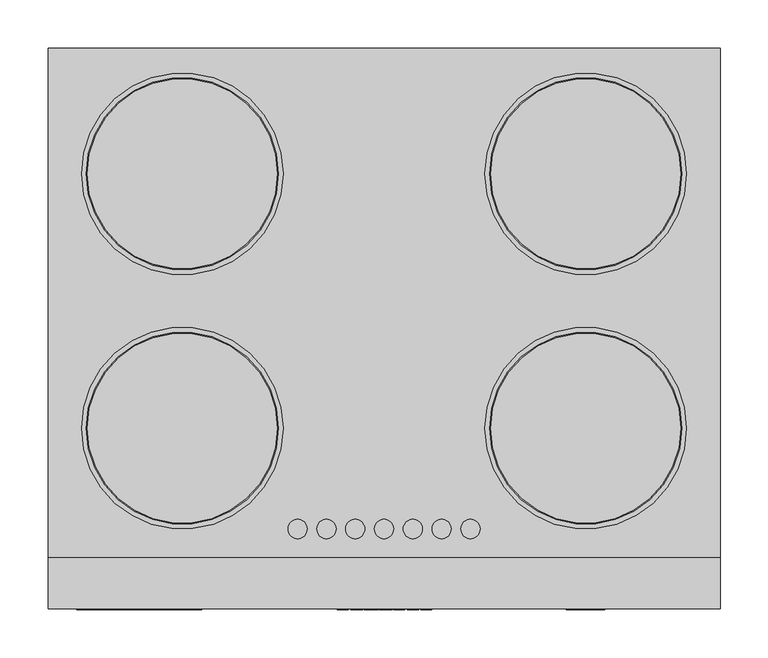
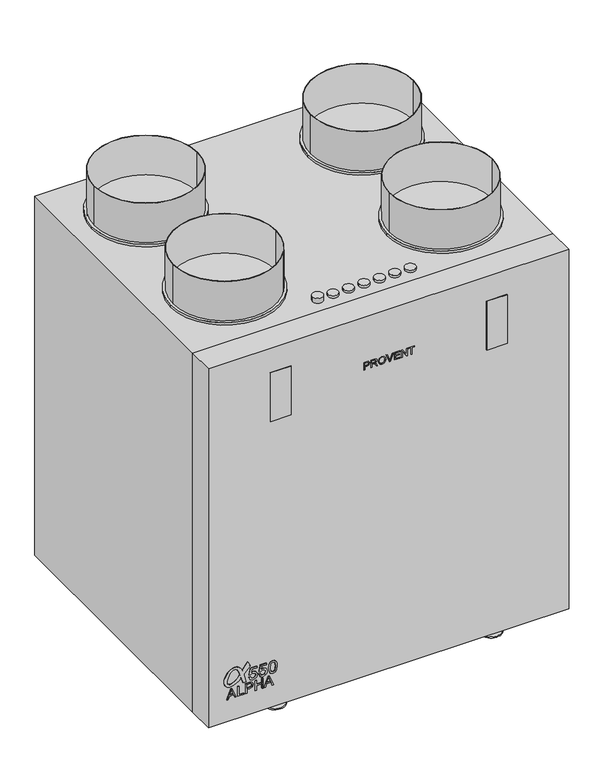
"""IFC4 building model written with IfcOpenShell, lengths in millimetres: proxy geometry, PROVENT_Вертикальная приточно-вытяжная установка_ALPHA 550 V_L : Provent ALPHA 550 V (L)."""

from ifc_helpers import new_model, si_unit, point, frame, frame_2d, origin, origin_with_axes, place, context, project, spatial, polyline, circle_curve, trimmed, segment, composite_curve, outline, extrude, source, transform, mapped, element, save
from ifc_brep_helpers import plane_surface, cylinder_surface, advanced_brep


def mechanical_equipment_6c99727b(model_context):
    return source(origin(), model_context, "Body", "SolidModel", [
        extrude(outline(composite_curve([segment(trimmed(circle_curve(frame_2d((105.733129, -284.9763849)), 0.5380284), [point((105.5307619, -284.477865))], [point((105.5307619, -285.4749048))], True, "CARTESIAN"), True, "CONTINUOUS"), segment(polyline([(105.5307619, -285.4749048), (108.4438718, -286.5931429), (110.8786758, -287.8337375), (111.8121807, -288.4873847)]), True, "CONTINUOUS"), segment(trimmed(circle_curve(frame_2d((104.0893382, -298.4577907)), 12.6115539), [point((111.8121807, -288.4873847))], [point((116.6261852, -299.8284687))], False, "CARTESIAN"), True, "CONTINUOUS"), segment(trimmed(circle_curve(frame_2d((94.7661112, -297.438464)), 21.9903379), [point((116.6261852, -299.8284687))], [point((104.4885666, -317.1627846))], False, "CARTESIAN"), True, "CONTINUOUS"), segment(trimmed(circle_curve(frame_2d((93.5739124, -298.6309048)), 21.5072137), [point((104.4885666, -317.1627846))], [point((86.750764, -319.0271027))], False, "CARTESIAN"), True, "CONTINUOUS"), segment(trimmed(circle_curve(frame_2d((92.3890877, -307.9035775)), 12.4709065), [point((86.750764, -319.0271027))], [point((79.9366704, -307.2247464))], False, "CARTESIAN"), True, "CONTINUOUS"), segment(trimmed(circle_curve(frame_2d((110.0461474, -310.929001)), 30.3364814), [point((79.9366704, -307.2247464))], [point((90.1381753, -288.0385062))], False, "CARTESIAN"), True, "CONTINUOUS"), segment(polyline([(90.1381753, -288.0385062), (97.4533974, -290.4153659)]), True, "CONTINUOUS"), segment(trimmed(circle_curve(frame_2d((112.8376087, -315.8775085)), 29.7488598), [point((97.4533974, -290.4153659))], [point((85.9068624, -303.2390922))], True, "CARTESIAN"), True, "CONTINUOUS"), segment(trimmed(circle_curve(frame_2d((94.2043298, -307.1330373)), 9.1657392), [point((85.9068624, -303.2390922))], [point((86.5295452, -312.1438711))], True, "CARTESIAN"), True, "CONTINUOUS"), segment(trimmed(circle_curve(frame_2d((91.0798658, -309.1729864)), 5.4342961), [point((86.5295452, -312.1438711))], [point((91.5402338, -314.5877472))], True, "CARTESIAN"), True, "CONTINUOUS"), segment(trimmed(circle_curve(frame_2d((91.5850962, -295.8364995)), 18.7513014), [point((91.5402338, -314.5877472))], [point((99.8454243, -312.6703429))], True, "CARTESIAN"), True, "CONTINUOUS"), segment(trimmed(circle_curve(frame_2d((91.1893595, -287.6077195)), 26.5153267), [point((99.8454243, -312.6703429))], [point((111.1844004, -305.0221069))], True, "CARTESIAN"), True, "CONTINUOUS"), segment(trimmed(circle_curve(frame_2d((105.8571487, -300.3824152)), 7.0644427), [point((111.1844004, -305.0221069))], [point((110.4868357, -295.0464664))], True, "CARTESIAN"), True, "CONTINUOUS"), segment(trimmed(circle_curve(frame_2d((74.7273898, -357.6671762)), 72.1116583), [point((110.4868357, -295.0464664))], [point((96.0155477, -288.7693853))], True, "CARTESIAN"), True, "CONTINUOUS"), segment(polyline([(96.0155477, -288.7693853), (80.1999436, -283.630584), (80.1999436, -277.5962905), (94.9084674, -281.397388)]), True, "CONTINUOUS"), segment(trimmed(circle_curve(frame_2d((95.7729921, -278.0520692)), 3.4552222), [point((94.9084674, -281.397388))], [point((98.5138308, -280.1559618))], True, "CARTESIAN"), True, "CONTINUOUS"), segment(polyline([(98.5138308, -280.1559618), (109.4841363, -269.9259864)]), True, "CONTINUOUS"), segment(trimmed(circle_curve(frame_2d((110.1625275, -270.6534719)), 0.9947108), [point((109.4841363, -269.9259864))], [point((110.8409186, -269.9259864))], False, "CARTESIAN"), True, "CONTINUOUS"), segment(polyline([(110.8409186, -269.9259864), (118.9566741, -273.8843048)]), True, "CONTINUOUS"), segment(trimmed(circle_curve(frame_2d((118.472789, -274.2278993)), 0.593466), [point((118.9566741, -273.8843048))], [point((118.8242858, -274.7060749))], False, "CARTESIAN"), True, "CONTINUOUS"), segment(polyline([(118.8242858, -274.7060749), (105.5307619, -284.477865)]), True, "CONTINUOUS")], self_intersect=False)), frame((0.0, -293.0, 0.0), z_axis=(0.0, 1.0, 0.0), x_axis=(0.0, 0.0, 1.0)), (0.0, 0.0, 1.0), 1.0),
        extrude(outline(polyline([(55.4809879, -314.7753475), (55.4809879, -312.121692), (61.7595073, -309.8261083), (61.7595073, -301.551216), (55.4809879, -299.2507273), (55.4809879, -296.5970718), (75.57225, -304.6168993), (75.57225, -306.75552), (55.4809879, -314.7753475)]), holes=[polyline([(64.2709151, -308.9039508), (69.6419922, -306.9370084), (73.0608422, -305.6862096), (69.210344, -304.2784479), (64.2709151, -302.4684684), (64.2709151, -308.9039508)])]), frame((0.0, -293.0, 0.0), z_axis=(0.0, 1.0, 0.0), x_axis=(0.0, 0.0, 1.0)), (0.0, 0.0, 1.0), 5.0),
        extrude(outline(polyline([(55.4809879, -293.9139858), (55.4809879, -281.356947), (57.9923957, -281.356947), (57.9923957, -291.402578), (75.57225, -291.402578), (75.57225, -293.9139858), (55.4809879, -293.9139858)])), frame((0.0, -293.0, 0.0), z_axis=(0.0, 1.0, 0.0), x_axis=(0.0, 0.0, 1.0)), (0.0, 0.0, 1.0), 5.0),
        extrude(outline(polyline([(55.4809879, -278.5316133), (55.4809879, -276.0202055), (63.6430631, -276.0202055), (63.6430631, -270.9140034), (65.4187069, -265.079395), (69.7597144, -263.4631668), (72.499209, -264.0615881), (74.441626, -265.6434807), (75.3809513, -268.0837646), (75.57225, -271.0856817), (75.57225, -278.5316133), (55.4809879, -278.5316133)]), holes=[polyline([(66.1544709, -276.0202055), (73.0608422, -276.0202055), (73.0608422, -270.8257118), (72.8891639, -268.314304), (71.7511823, -266.6195943), (69.6714228, -265.9745745), (67.0766284, -267.0684103), (66.1544709, -270.7668506), (66.1544709, -276.0202055)])]), frame((0.0, -293.0, 0.0), z_axis=(0.0, 1.0, 0.0), x_axis=(0.0, 0.0, 1.0)), (0.0, 0.0, 1.0), 5.0),
        extrude(outline(polyline([(55.4809879, -260.0099811), (55.4809879, -257.4985734), (64.898767, -257.4985734), (64.898767, -246.8250904), (55.4809879, -246.8250904), (55.4809879, -244.3136826), (75.57225, -244.3136826), (75.57225, -246.8250904), (67.4101748, -246.8250904), (67.4101748, -257.4985734), (75.57225, -257.4985734), (75.57225, -260.0099811), (55.4809879, -260.0099811)])), frame((0.0, -293.0, 0.0), z_axis=(0.0, 1.0, 0.0), x_axis=(0.0, 0.0, 1.0)), (0.0, 0.0, 1.0), 5.0),
        extrude(outline(polyline([(55.4809879, -242.2584486), (55.4809879, -239.6047931), (61.7595073, -237.3092095), (61.7595073, -229.0343171), (55.4809879, -226.7338284), (55.4809879, -224.0801729), (75.57225, -232.1000004), (75.57225, -234.2386211), (55.4809879, -242.2584486)]), holes=[polyline([(64.2709151, -236.3870519), (69.6419922, -234.4201095), (73.0608422, -233.1693107), (69.210344, -231.761549), (64.2709151, -229.9515696), (64.2709151, -236.3870519)])]), frame((0.0, -293.0, 0.0), z_axis=(0.0, 1.0, 0.0), x_axis=(0.0, 0.0, 1.0)), (0.0, 0.0, 1.0), 5.0),
        extrude(outline(polyline([(86.2812872, -271.9127041), (81.1523991, -269.4632232), (79.2179529, -263.9235335), (82.2284539, -257.3997594), (88.0532522, -255.4315907), (93.8412622, -257.6174229), (96.0914738, -262.9854344), (94.2765893, -267.5778279), (101.1927708, -266.2350587), (101.1927708, -256.6088131), (104.3320305, -256.6088131), (104.3320305, -268.7734444), (91.3825842, -271.5202967), (90.9901768, -268.381037), (92.4065225, -266.6182691), (92.9522141, -263.8622198), (91.5849193, -259.8860286), (87.8570485, -258.5708504), (83.8624631, -259.9749334), (82.3572126, -263.9112707), (83.4393988, -267.1915518), (86.6736947, -268.7734444), (86.2812872, -271.9127041)])), frame((0.0, -293.0, 0.0), z_axis=(0.0, 1.0, 0.0), x_axis=(0.0, 0.0, 1.0)), (0.0, 0.0, 1.0), 5.0),
        extrude(outline(polyline([(86.2812872, -252.6847385), (81.1523991, -250.2352575), (79.2179529, -244.6955678), (82.2284539, -238.1717938), (88.0532522, -236.2036251), (93.8412622, -238.3894573), (96.0914738, -243.7574687), (94.2765893, -248.3498623), (101.1927708, -247.007093), (101.1927708, -237.3808475), (104.3320305, -237.3808475), (104.3320305, -249.5454788), (91.3825842, -252.292331), (90.9901768, -249.1530713), (92.4065225, -247.3903035), (92.9522141, -244.6342542), (91.5849193, -240.6580629), (87.8570485, -239.3428848), (83.8624631, -240.7469678), (82.3572126, -244.6833051), (83.4393988, -247.9635862), (86.6736947, -249.5454788), (86.2812872, -252.6847385)])), frame((0.0, -293.0, 0.0), z_axis=(0.0, 1.0, 0.0), x_axis=(0.0, 0.0, 1.0)), (0.0, 0.0, 1.0), 5.0),
        extrude(outline(polyline([(91.9650641, -233.4567729), (81.6091859, -230.9551753), (79.2179529, -225.2162162), (80.5944447, -220.6207569), (84.7699054, -217.8892331), (91.9650641, -216.9756595), (97.8665044, -217.5458766), (101.5821126, -219.0174046), (103.9150975, -221.549659), (104.7244379, -225.2162162), (103.3571432, -229.7932813), (99.1908796, -232.5340022), (91.9650641, -233.4567729)]), holes=[polyline([(91.9711954, -230.3175132), (99.9051838, -228.7969343), (101.5851782, -225.2530044), (99.6783232, -221.5373962), (91.9711954, -220.1149192), (84.1812942, -221.5864472), (82.3572126, -225.2162162), (84.1751628, -228.8459852), (91.9711954, -230.3175132)])]), frame((0.0, -293.0, 0.0), z_axis=(0.0, 1.0, 0.0), x_axis=(0.0, 0.0, 1.0)), (0.0, 0.0, 1.0), 5.0),
        extrude(outline(polyline([(-190.0, -293.0), (-230.0, -293.0), (-230.0, -292.0), (-190.0, -292.0), (-190.0, -293.0)])), frame((0.0, 0.0, 597.0), z_axis=(0.0, 0.0, 1.0), x_axis=(1.0, 0.0, 0.0)), (0.0, 0.0, 1.0), 100.0),
        extrude(outline(polyline([(230.0, -293.0), (190.0, -293.0), (190.0, -292.0), (230.0, -292.0), (230.0, -293.0)])), frame((0.0, 0.0, 597.0), z_axis=(0.0, 0.0, 1.0), x_axis=(1.0, 0.0, 0.0)), (0.0, 0.0, 1.0), 100.0),
        extrude(outline(composite_curve([segment(trimmed(circle_curve(frame_2d((-90.0, -209.0)), 10.0), [point((-100.0, -209.0))], [point((-80.0, -209.0))], False, "CARTESIAN"), True, "CONTINUOUS"), segment(trimmed(circle_curve(frame_2d((-90.0, -209.0)), 10.0), [point((-80.0, -209.0))], [point((-100.0, -209.0))], False, "CARTESIAN"), True, "CONTINUOUS")], self_intersect=False)), frame((0.0, 0.0, 747.0), z_axis=(0.0, 0.0, 1.0), x_axis=(1.0, 0.0, 0.0)), (0.0, 0.0, 1.0), 10.0),
        extrude(outline(composite_curve([segment(trimmed(circle_curve(frame_2d((0.0, -209.0)), 10.0), [point((-10.0, -209.0))], [point((10.0, -209.0))], False, "CARTESIAN"), True, "CONTINUOUS"), segment(trimmed(circle_curve(frame_2d((0.0, -209.0)), 10.0), [point((10.0, -209.0))], [point((-10.0, -209.0))], False, "CARTESIAN"), True, "CONTINUOUS")], self_intersect=False)), frame((0.0, 0.0, 747.0), z_axis=(0.0, 0.0, 1.0), x_axis=(1.0, 0.0, 0.0)), (0.0, 0.0, 1.0), 5.0),
        extrude(outline(composite_curve([segment(trimmed(circle_curve(frame_2d((30.0, -209.0)), 10.0), [point((20.0, -209.0))], [point((40.0, -209.0))], False, "CARTESIAN"), True, "CONTINUOUS"), segment(trimmed(circle_curve(frame_2d((30.0, -209.0)), 10.0), [point((40.0, -209.0))], [point((20.0, -209.0))], False, "CARTESIAN"), True, "CONTINUOUS")], self_intersect=False)), frame((0.0, 0.0, 747.0), z_axis=(0.0, 0.0, 1.0), x_axis=(1.0, 0.0, 0.0)), (0.0, 0.0, 1.0), 5.0),
        extrude(outline(composite_curve([segment(trimmed(circle_curve(frame_2d((60.0, -209.0)), 10.0), [point((50.0, -209.0))], [point((70.0, -209.0))], False, "CARTESIAN"), True, "CONTINUOUS"), segment(trimmed(circle_curve(frame_2d((60.0, -209.0)), 10.0), [point((70.0, -209.0))], [point((50.0, -209.0))], False, "CARTESIAN"), True, "CONTINUOUS")], self_intersect=False)), frame((0.0, 0.0, 747.0), z_axis=(0.0, 0.0, 1.0), x_axis=(1.0, 0.0, 0.0)), (0.0, 0.0, 1.0), 5.0),
        extrude(outline(composite_curve([segment(trimmed(circle_curve(frame_2d((90.0, -209.0)), 10.0), [point((80.0, -209.0))], [point((100.0, -209.0))], False, "CARTESIAN"), True, "CONTINUOUS"), segment(trimmed(circle_curve(frame_2d((90.0, -209.0)), 10.0), [point((100.0, -209.0))], [point((80.0, -209.0))], False, "CARTESIAN"), True, "CONTINUOUS")], self_intersect=False)), frame((0.0, 0.0, 747.0), z_axis=(0.0, 0.0, 1.0), x_axis=(1.0, 0.0, 0.0)), (0.0, 0.0, 1.0), 5.0),
        extrude(outline(composite_curve([segment(trimmed(circle_curve(frame_2d((-30.0, -209.0)), 10.0), [point((-40.0, -209.0))], [point((-20.0, -209.0))], False, "CARTESIAN"), True, "CONTINUOUS"), segment(trimmed(circle_curve(frame_2d((-30.0, -209.0)), 10.0), [point((-20.0, -209.0))], [point((-40.0, -209.0))], False, "CARTESIAN"), True, "CONTINUOUS")], self_intersect=False)), frame((0.0, 0.0, 747.0), z_axis=(0.0, 0.0, 1.0), x_axis=(1.0, 0.0, 0.0)), (0.0, 0.0, 1.0), 5.0),
        extrude(outline(composite_curve([segment(trimmed(circle_curve(frame_2d((-60.0, -209.0)), 10.0), [point((-70.0, -209.0))], [point((-50.0, -209.0))], False, "CARTESIAN"), True, "CONTINUOUS"), segment(trimmed(circle_curve(frame_2d((-60.0, -209.0)), 10.0), [point((-50.0, -209.0))], [point((-70.0, -209.0))], False, "CARTESIAN"), True, "CONTINUOUS")], self_intersect=False)), frame((0.0, 0.0, 747.0), z_axis=(0.0, 0.0, 1.0), x_axis=(1.0, 0.0, 0.0)), (0.0, 0.0, 1.0), 5.0),
        advanced_brep(
        [(-230.0, -239.2475488, 2.5), (-230.0, -201.7475488, 10.0), (-230.0, -189.0, 10.0), (-230.0, -189.0, 7.5), (-230.0, -201.5, 7.5), (-230.0, -239.0, 0.0), (-230.0, -272.0, 0.0), (-230.0, -272.0, 2.5), (-190.0, -239.0, 0.0), (-190.0, -201.5, 7.5), (-190.0, -189.0, 7.5), (-190.0, -189.0, 10.0), (-190.0, -201.7475488, 10.0), (-190.0, -239.2475488, 2.5), (-190.0, -272.0, 2.5), (-190.0, -272.0, 0.0), (-210.0, -292.0, 0.0), (-210.0, -292.0, 2.5)],
        [
            (0, 1),
            (1, 2),
            (2, 3),
            (3, 4),
            (4, 5),
            (5, 6),
            (6, 7),
            (7, 0),
            (8, 9),
            (9, 10),
            (10, 11),
            (11, 12),
            (12, 13),
            (13, 14),
            (14, 15),
            (15, 8),
            (5, 8),
            (15, 16, circle_curve(frame((-210.0, -272.0, 0.0), z_axis=(0.0, 0.0, -1.0), x_axis=(-1.0, 0.0, 0.0)), 20.0)),
            (16, 6, circle_curve(frame((-210.0, -272.0, 0.0), z_axis=(0.0, 0.0, -1.0), x_axis=(1.0, 0.0, 0.0)), 20.0)),
            (4, 9),
            (3, 10),
            (2, 11),
            (1, 12),
            (0, 13),
            (7, 17, circle_curve(frame((-210.0, -272.0, 2.5), z_axis=(0.0, 0.0, 1.0), x_axis=(1.0, 0.0, 0.0)), 20.0)),
            (17, 14, circle_curve(frame((-210.0, -272.0, 2.5), z_axis=(0.0, 0.0, 1.0), x_axis=(-1.0, 0.0, 0.0)), 20.0)),
            (17, 16),
        ],
        [
            plane_surface(frame((-230.0, -292.0, 2.5), z_axis=(-1.0, 0.0, 0.0), x_axis=(0.0, 1.0, 0.0))),
            plane_surface(frame((-190.0, -292.0, 2.5), z_axis=(1.0, 0.0, 0.0), x_axis=(0.0, -1.0, 0.0))),
            plane_surface(frame((-230.0, -239.0, 0.0), z_axis=(0.0, 0.0, -1.0), x_axis=(1.0, 0.0, 0.0))),
            plane_surface(frame((-230.0, -201.5, 7.5), z_axis=(0.0, 0.19611613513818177, -0.9805806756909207), x_axis=(1.0, 0.0, 0.0))),
            plane_surface(frame((-230.0, -189.0, 7.5), z_axis=(0.0, 0.0, -1.0), x_axis=(1.0, 0.0, 0.0))),
            plane_surface(frame((-230.0, -189.0, 10.0), z_axis=(0.0, 1.0, 0.0), x_axis=(1.0, 0.0, 0.0))),
            plane_surface(frame((-230.0, -201.7475488, 10.0), z_axis=(0.0, 0.0, 1.0), x_axis=(1.0, 0.0, 0.0))),
            plane_surface(frame((-230.0, -239.2475488, 2.5), z_axis=(0.0, -0.19611613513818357, 0.9805806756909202), x_axis=(1.0, 0.0, 0.0))),
            plane_surface(frame((-230.0, -292.0, 2.5), z_axis=(0.0, 0.0, 1.0), x_axis=(1.0, 0.0, 0.0))),
            cylinder_surface(frame((-210.0, -272.0, 0.0), z_axis=(0.0, 0.0, -1.0), x_axis=(-1.0, 0.0, 0.0)), 20.0),
            cylinder_surface(frame((-210.0, -272.0, 0.0), z_axis=(0.0, 0.0, -1.0), x_axis=(1.0, 0.0, 0.0)), 20.0),
        ],
        [
            (0, [[1, 2, 3, 4, 5, 6, 7, 8]]),
            (1, [[9, 10, 11, 12, 13, 14, 15, 16]]),
            (2, [[17, -16, 18, 19, -6]]),
            (3, [[-5, 20, -9, -17]]),
            (4, [[-4, 21, -10, -20]]),
            (5, [[-3, 22, -11, -21]]),
            (6, [[-2, 23, -12, -22]]),
            (7, [[-1, 24, -13, -23]]),
            (8, [[-24, -8, 25, 26, -14]]),
            (9, [[-15, -26, 27, -18]]),
            (10, [[-7, -19, -27, -25]]),
        ],
    ),
        advanced_brep(
        [(230.0, -239.0, 0.0), (230.0, -201.5, 7.5), (230.0, -189.0, 7.5), (230.0, -189.0, 10.0), (230.0, -201.7475488, 10.0), (230.0, -239.2475488, 2.5), (230.0, -272.0, 2.5), (230.0, -272.0, 0.0), (190.0, -239.2475488, 2.5), (190.0, -201.7475488, 10.0), (190.0, -189.0, 10.0), (190.0, -189.0, 7.5), (190.0, -201.5, 7.5), (190.0, -239.0, 0.0), (190.0, -272.0, 0.0), (190.0, -272.0, 2.5), (210.0, -292.0, 0.0), (210.0, -292.0, 2.5)],
        [
            (0, 1),
            (1, 2),
            (2, 3),
            (3, 4),
            (4, 5),
            (5, 6),
            (6, 7),
            (7, 0),
            (8, 9),
            (9, 10),
            (10, 11),
            (11, 12),
            (12, 13),
            (13, 14),
            (14, 15),
            (15, 8),
            (13, 0),
            (7, 16, circle_curve(frame((210.0, -272.0, 0.0), z_axis=(0.0, 0.0, -1.0), x_axis=(-1.0, 0.0, 0.0)), 20.0)),
            (16, 14, circle_curve(frame((210.0, -272.0, 0.0), z_axis=(0.0, 0.0, -1.0), x_axis=(1.0, 0.0, 0.0)), 20.0)),
            (12, 1),
            (11, 2),
            (10, 3),
            (9, 4),
            (8, 5),
            (15, 17, circle_curve(frame((210.0, -272.0, 2.5), z_axis=(0.0, 0.0, 1.0), x_axis=(1.0, 0.0, 0.0)), 20.0)),
            (17, 6, circle_curve(frame((210.0, -272.0, 2.5), z_axis=(0.0, 0.0, 1.0), x_axis=(-1.0, 0.0, 0.0)), 20.0)),
            (16, 17),
        ],
        [
            plane_surface(frame((230.0, -292.0, 0.0), z_axis=(1.0, 0.0, 0.0), x_axis=(0.0, 0.0, -1.0))),
            plane_surface(frame((190.0, -292.0, 0.0), z_axis=(-1.0, 0.0, 0.0), x_axis=(0.0, 0.0, 1.0))),
            plane_surface(frame((230.0, -292.0, 0.0), z_axis=(0.0, 0.0, -1.0), x_axis=(-1.0, 0.0, 0.0))),
            plane_surface(frame((230.0, -239.0, 0.0), z_axis=(0.0, 0.1961161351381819, -0.9805806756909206), x_axis=(-1.0, 0.0, 0.0))),
            plane_surface(frame((230.0, -201.5, 7.5), z_axis=(0.0, 0.0, -1.0), x_axis=(-1.0, 0.0, 0.0))),
            plane_surface(frame((230.0, -189.0, 7.5), z_axis=(0.0, 1.0, 0.0), x_axis=(-1.0, 0.0, 0.0))),
            plane_surface(frame((230.0, -189.0, 10.0), z_axis=(0.0, 0.0, 1.0), x_axis=(-1.0, 0.0, 0.0))),
            plane_surface(frame((230.0, -201.7475488, 10.0), z_axis=(0.0, -0.19611613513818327, 0.9805806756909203), x_axis=(-1.0, 0.0, 0.0))),
            plane_surface(frame((230.0, -239.2475488, 2.5), z_axis=(0.0, 0.0, 1.0), x_axis=(-1.0, 0.0, 0.0))),
            cylinder_surface(frame((210.0, -272.0, 0.0), z_axis=(0.0, 0.0, -1.0), x_axis=(1.0, 0.0, 0.0)), 20.0),
            cylinder_surface(frame((210.0, -272.0, 0.0), z_axis=(0.0, 0.0, -1.0), x_axis=(-1.0, 0.0, 0.0)), 20.0),
        ],
        [
            (0, [[1, 2, 3, 4, 5, 6, 7, 8]]),
            (1, [[9, 10, 11, 12, 13, 14, 15, 16]]),
            (2, [[17, -8, 18, 19, -14]]),
            (3, [[-1, -17, -13, 20]]),
            (4, [[-2, -20, -12, 21]]),
            (5, [[-3, -21, -11, 22]]),
            (6, [[-4, -22, -10, 23]]),
            (7, [[-5, -23, -9, 24]]),
            (8, [[-24, -16, 25, 26, -6]]),
            (9, [[-15, -19, 27, -25]]),
            (10, [[-7, -26, -27, -18]]),
        ],
    ),
        extrude(outline(polyline([(350.0, -292.0), (-350.0, -292.0), (-350.0, -239.0), (350.0, -239.0), (350.0, -292.0)])), frame((0.0, 0.0, 10.0), z_axis=(0.0, 0.0, 1.0), x_axis=(1.0, 0.0, 0.0)), (0.0, 0.0, 1.0), 737.0),
        extrude(outline(polyline([(639.5, -48.7370067), (639.5, -46.8534509), (645.6215564, -46.8534509), (645.6215564, -43.0237993), (646.9532892, -38.647843), (650.2090449, -37.4356718), (652.2636658, -37.8844879), (653.7204785, -39.0709073), (654.4249725, -40.9011202), (654.5684465, -43.152558), (654.5684465, -48.7370067), (639.5, -48.7370067)]), holes=[polyline([(647.5051122, -46.8534509), (652.6848907, -46.8534509), (652.6848907, -42.9575806), (651.7026458, -39.8029925), (650.1428261, -39.3192276), (648.1967304, -40.1396045), (647.5051122, -42.9134347), (647.5051122, -46.8534509)])]), frame((0.0, -293.0, 0.0), z_axis=(0.0, 1.0, 0.0), x_axis=(0.0, 0.0, 1.0)), (0.0, 0.0, 1.0), 5.0),
        extrude(outline(polyline([(639.5, -34.8457826), (639.5, -32.9622268), (646.0924454, -32.9622268), (644.690815, -27.7051931), (642.6233181, -26.2888474), (639.5, -24.3280363), (639.5, -22.1391385), (643.5834901, -24.6517725), (646.3278898, -27.2490194), (647.7295202, -24.0944313), (650.4444894, -23.0735587), (652.7235183, -23.6897611), (654.1619369, -25.3378724), (654.5684465, -28.3526654), (654.5684465, -34.8457826), (639.5, -34.8457826)]), holes=[polyline([(647.9760012, -32.9622268), (652.6848907, -32.9622268), (652.6848907, -28.2717313), (652.0337396, -25.7535791), (648.2427156, -26.5960288), (647.9760012, -28.7462991), (647.9760012, -32.9622268)])]), frame((0.0, -293.0, 0.0), z_axis=(0.0, 1.0, 0.0), x_axis=(0.0, 0.0, 1.0)), (0.0, 0.0, 1.0), 5.0),
        extrude(outline(polyline([(646.835567, -20.4836695), (643.08501, -19.6228256), (640.2891069, -17.0917975), (639.2645555, -13.3026129), (640.1916182, -9.655063), (642.9213026, -7.0431008), (647.0084715, -6.1215564), (651.0404582, -6.9971155), (653.8106096, -9.542859), (654.803891, -13.2915765), (652.6885695, -18.4750338), (646.835567, -20.4836695)]), holes=[polyline([(646.8171729, -18.6001137), (651.5131866, -17.0292576), (652.9203352, -13.28054), (652.1900894, -10.5159068), (650.1317897, -8.6452269), (647.0231868, -8.0051122), (642.6785004, -9.5005525), (641.1481113, -13.3136494), (642.6637852, -17.0936369), (646.8171729, -18.6001137)])]), frame((0.0, -293.0, 0.0), z_axis=(0.0, 1.0, 0.0), x_axis=(0.0, 0.0, 1.0)), (0.0, 0.0, 1.0), 5.0),
        extrude(outline(polyline([(639.5, 0.919705), (639.5, 2.8658007), (654.5684465, 8.6084387), (654.5684465, 6.5924454), (643.7122488, 2.5678163), (641.2658336, 1.7658336), (643.7122488, 0.9528144), (654.5684465, -3.0607782), (654.5684465, -5.0767715), (639.5, 0.919705)])), frame((0.0, -293.0, 0.0), z_axis=(0.0, 1.0, 0.0), x_axis=(0.0, 0.0, 1.0)), (0.0, 0.0, 1.0), 5.0),
        extrude(outline(polyline([(639.5, 10.359557), (639.5, 21.4254474), (641.3835558, 21.4254474), (641.3835558, 12.2431128), (646.3278898, 12.2431128), (646.3278898, 20.719114), (648.2114456, 20.719114), (648.2114456, 12.2431128), (652.6848907, 12.2431128), (652.6848907, 21.1900029), (654.5684465, 21.1900029), (654.5684465, 10.359557), (639.5, 10.359557)])), frame((0.0, -293.0, 0.0), z_axis=(0.0, 1.0, 0.0), x_axis=(0.0, 0.0, 1.0)), (0.0, 0.0, 1.0), 5.0),
        extrude(outline(polyline([(639.5, 24.2507811), (639.5, 26.1343369), (651.4414496, 26.1343369), (639.5, 34.0070116), (639.5, 36.023005), (654.5684465, 36.023005), (654.5684465, 34.1394492), (642.6306758, 34.1394492), (654.5684465, 26.2667745), (654.5684465, 24.2507811), (639.5, 24.2507811)])), frame((0.0, -293.0, 0.0), z_axis=(0.0, 1.0, 0.0), x_axis=(0.0, 0.0, 1.0)), (0.0, 0.0, 1.0), 5.0),
        extrude(outline(polyline([(639.5, 43.0863393), (639.5, 44.9698951), (652.6848907, 44.9698951), (652.6848907, 49.9142291), (654.5684465, 49.9142291), (654.5684465, 38.1420053), (652.6848907, 38.1420053), (652.6848907, 43.0863393), (639.5, 43.0863393)])), frame((0.0, -293.0, 0.0), z_axis=(0.0, 1.0, 0.0), x_axis=(0.0, 0.0, 1.0)), (0.0, 0.0, 1.0), 5.0),
        extrude(outline(composite_curve([segment(trimmed(circle_curve(frame_2d((-210.0, 161.0)), 105.0), [point((-315.0, 161.0))], [point((-105.0, 161.0))], False, "CARTESIAN"), True, "CONTINUOUS"), segment(trimmed(circle_curve(frame_2d((-210.0, 161.0)), 105.0), [point((-105.0, 161.0))], [point((-315.0, 161.0))], False, "CARTESIAN"), True, "CONTINUOUS")], self_intersect=False)), frame((0.0, 0.0, 747.0), z_axis=(0.0, 0.0, 1.0), x_axis=(1.0, 0.0, 0.0)), (0.0, 0.0, 1.0), 5.0),
        extrude(outline(composite_curve([segment(trimmed(circle_curve(frame_2d((210.0, 161.0)), 105.0), [point((105.0, 161.0))], [point((315.0, 161.0))], False, "CARTESIAN"), True, "CONTINUOUS"), segment(trimmed(circle_curve(frame_2d((210.0, 161.0)), 105.0), [point((315.0, 161.0))], [point((105.0, 161.0))], False, "CARTESIAN"), True, "CONTINUOUS")], self_intersect=False)), frame((0.0, 0.0, 747.0), z_axis=(0.0, 0.0, 1.0), x_axis=(1.0, 0.0, 0.0)), (0.0, 0.0, 1.0), 5.0),
        extrude(outline(composite_curve([segment(trimmed(circle_curve(frame_2d((210.0, -104.0)), 105.0), [point((105.0, -104.0))], [point((315.0, -104.0))], False, "CARTESIAN"), True, "CONTINUOUS"), segment(trimmed(circle_curve(frame_2d((210.0, -104.0)), 105.0), [point((315.0, -104.0))], [point((105.0, -104.0))], False, "CARTESIAN"), True, "CONTINUOUS")], self_intersect=False)), frame((0.0, 0.0, 747.0), z_axis=(0.0, 0.0, 1.0), x_axis=(1.0, 0.0, 0.0)), (0.0, 0.0, 1.0), 5.0),
        extrude(outline(composite_curve([segment(trimmed(circle_curve(frame_2d((-210.0, -104.0)), 105.0), [point((-315.0, -104.0))], [point((-105.0, -104.0))], False, "CARTESIAN"), True, "CONTINUOUS"), segment(trimmed(circle_curve(frame_2d((-210.0, -104.0)), 105.0), [point((-105.0, -104.0))], [point((-315.0, -104.0))], False, "CARTESIAN"), True, "CONTINUOUS")], self_intersect=False)), frame((0.0, 0.0, 747.0), z_axis=(0.0, 0.0, 1.0), x_axis=(1.0, 0.0, 0.0)), (0.0, 0.0, 1.0), 5.0),
        extrude(outline(polyline([(190.0, 292.0), (190.0, 289.5), (-190.0, 289.5), (-190.0, 292.0), (190.0, 292.0)])), origin_with_axes(), (0.0, 0.0, 1.0), 10.0),
        extrude(outline(composite_curve([segment(trimmed(circle_curve(frame_2d((-210.0, 161.0)), 100.0), [point((-310.0, 161.0))], [point((-110.0, 161.0))], False, "CARTESIAN"), True, "CONTINUOUS"), segment(trimmed(circle_curve(frame_2d((-210.0, 161.0)), 100.0), [point((-110.0, 161.0))], [point((-310.0, 161.0))], False, "CARTESIAN"), True, "CONTINUOUS")], self_intersect=False), holes=[composite_curve([segment(trimmed(circle_curve(frame_2d((-210.0, 161.0)), 99.0), [point((-309.0, 161.0))], [point((-111.0, 161.0))], True, "CARTESIAN"), True, "CONTINUOUS"), segment(trimmed(circle_curve(frame_2d((-210.0, 161.0)), 99.0), [point((-111.0, 161.0))], [point((-309.0, 161.0))], True, "CARTESIAN"), True, "CONTINUOUS")], self_intersect=False)]), frame((0.0, 0.0, 747.0), z_axis=(0.0, 0.0, 1.0), x_axis=(1.0, 0.0, 0.0)), (0.0, 0.0, 1.0), 86.0),
        extrude(outline(composite_curve([segment(trimmed(circle_curve(frame_2d((210.0, 161.0)), 100.0), [point((110.0, 161.0))], [point((310.0, 161.0))], False, "CARTESIAN"), True, "CONTINUOUS"), segment(trimmed(circle_curve(frame_2d((210.0, 161.0)), 100.0), [point((310.0, 161.0))], [point((110.0, 161.0))], False, "CARTESIAN"), True, "CONTINUOUS")], self_intersect=False), holes=[composite_curve([segment(trimmed(circle_curve(frame_2d((210.0, 161.0)), 99.0), [point((111.0, 161.0))], [point((309.0, 161.0))], True, "CARTESIAN"), True, "CONTINUOUS"), segment(trimmed(circle_curve(frame_2d((210.0, 161.0)), 99.0), [point((309.0, 161.0))], [point((111.0, 161.0))], True, "CARTESIAN"), True, "CONTINUOUS")], self_intersect=False)]), frame((0.0, 0.0, 747.0), z_axis=(0.0, 0.0, 1.0), x_axis=(1.0, 0.0, 0.0)), (0.0, 0.0, 1.0), 86.0),
        extrude(outline(composite_curve([segment(trimmed(circle_curve(frame_2d((-210.0, -104.0)), 100.0), [point((-310.0, -104.0))], [point((-110.0, -104.0))], False, "CARTESIAN"), True, "CONTINUOUS"), segment(trimmed(circle_curve(frame_2d((-210.0, -104.0)), 100.0), [point((-110.0, -104.0))], [point((-310.0, -104.0))], False, "CARTESIAN"), True, "CONTINUOUS")], self_intersect=False), holes=[composite_curve([segment(trimmed(circle_curve(frame_2d((-210.0, -104.0)), 99.0), [point((-309.0, -104.0))], [point((-111.0, -104.0))], True, "CARTESIAN"), True, "CONTINUOUS"), segment(trimmed(circle_curve(frame_2d((-210.0, -104.0)), 99.0), [point((-111.0, -104.0))], [point((-309.0, -104.0))], True, "CARTESIAN"), True, "CONTINUOUS")], self_intersect=False)]), frame((0.0, 0.0, 747.0), z_axis=(0.0, 0.0, 1.0), x_axis=(1.0, 0.0, 0.0)), (0.0, 0.0, 1.0), 86.0),
        extrude(outline(composite_curve([segment(trimmed(circle_curve(frame_2d((210.0, -104.0)), 100.0), [point((110.0, -104.0))], [point((310.0, -104.0))], False, "CARTESIAN"), True, "CONTINUOUS"), segment(trimmed(circle_curve(frame_2d((210.0, -104.0)), 100.0), [point((310.0, -104.0))], [point((110.0, -104.0))], False, "CARTESIAN"), True, "CONTINUOUS")], self_intersect=False), holes=[composite_curve([segment(trimmed(circle_curve(frame_2d((210.0, -104.0)), 99.0), [point((111.0, -104.0))], [point((309.0, -104.0))], True, "CARTESIAN"), True, "CONTINUOUS"), segment(trimmed(circle_curve(frame_2d((210.0, -104.0)), 99.0), [point((309.0, -104.0))], [point((111.0, -104.0))], True, "CARTESIAN"), True, "CONTINUOUS")], self_intersect=False)]), frame((0.0, 0.0, 747.0), z_axis=(0.0, 0.0, 1.0), x_axis=(1.0, 0.0, 0.0)), (0.0, 0.0, 1.0), 86.0),
        extrude(outline(polyline([(350.0, 292.0), (350.0, -239.0), (-350.0, -239.0), (-350.0, 292.0), (350.0, 292.0)])), frame((0.0, 0.0, 10.0), z_axis=(0.0, 0.0, 1.0), x_axis=(1.0, 0.0, 0.0)), (0.0, 0.0, 1.0), 737.0),
    ])


if __name__ == "__main__":
    model = new_model("IFC4")
    model_context = context("Model", 3, world=origin())
    ifc_project = project(units=[si_unit("LENGTHUNIT", "METRE", prefix="MILLI")], contexts=[model_context])
    site = spatial("IfcSite", under=ifc_project)
    building = spatial("IfcBuilding", under=site)
    placement = place(None, origin())
    mechanical_equipment_shape = mechanical_equipment_6c99727b(model_context)
    element("IfcBuildingElementProxy", 1, Name="PROVENT_Вертикальная приточно-вытяжная установка_ALPHA 550 V_L : Provent ALPHA 550 V (L)", ObjectType="PROVENT_Вертикальная приточно-вытяжная установка_ALPHA 550 V_L : Provent ALPHA 550 V (L)", at=placement, inside=building, context=model_context, shape_type="MappedRepresentation", body=[
        mapped(mechanical_equipment_shape, transform((0.0, 0.0, 0.0), x_axis=(1.0, 0.0, 0.0), y_axis=(0.0, 1.0, 0.0), z_axis=(0.0, 0.0, 1.0))),
    ])
    save(model, "model.ifc")
